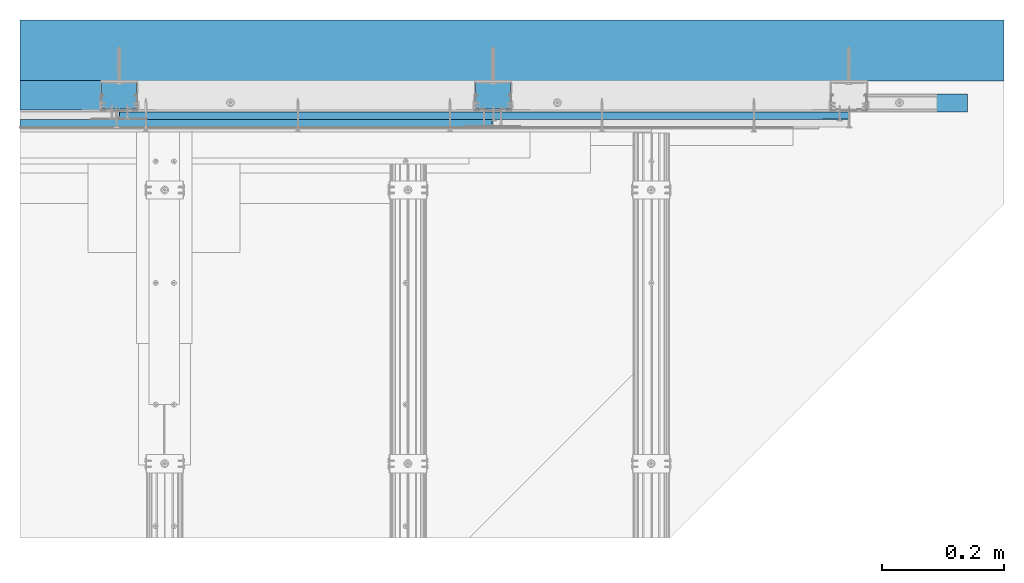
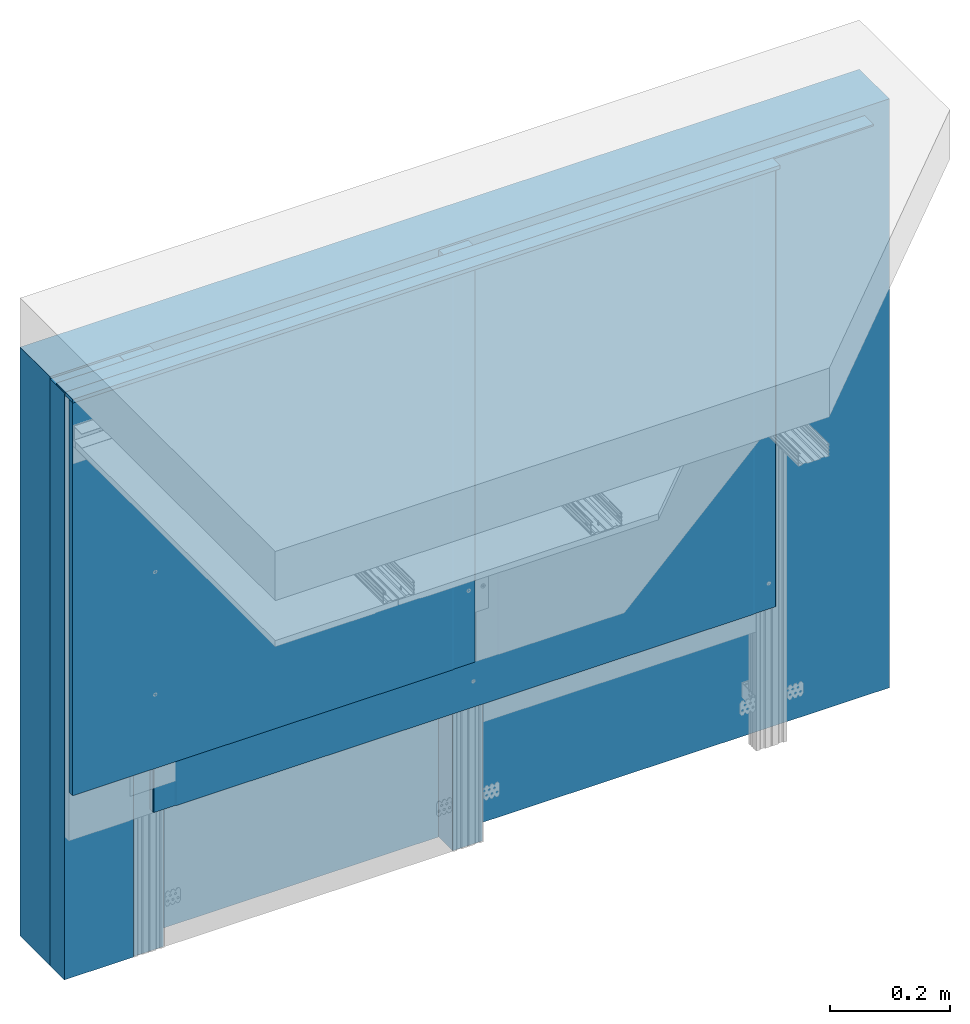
# One storey, part 30 of 62: 8 walls.
"""IFC2X3 building model written with IfcOpenShell, lengths in millimetres."""

from ifc_helpers import new_model, entity, si_unit, converted_unit, direction, frame, origin, origin_with_axes, place, context, project, spatial, faceted_brep, element, save


model = new_model("IFC2X3")

# Units and contexts
model_context = context("Model", 3, precision=1e-05, world=origin(), true_north=direction((0.0, 1.0, 0.0)))
ifc_project = project(units=[si_unit("LENGTHUNIT", "METRE", prefix="MILLI"), si_unit("AREAUNIT", "SQUARE_METRE"), si_unit("VOLUMEUNIT", "CUBIC_METRE"), converted_unit("PLANEANGLEUNIT", "DEGREE", entity("IfcPlaneAngleMeasure", 0.01745), si_unit("PLANEANGLEUNIT", "RADIAN"), dimensions=[0, 0, 0, 0, 0, 0, 0]), si_unit("SOLIDANGLEUNIT", "STERADIAN"), si_unit("MASSUNIT", "GRAM"), si_unit("TIMEUNIT", "SECOND"), si_unit("THERMODYNAMICTEMPERATUREUNIT", "DEGREE_CELSIUS"), si_unit("LUMINOUSINTENSITYUNIT", "LUMEN")], contexts=[model_context])

# Site, building, storey
site_placement = place(None, origin_with_axes())
site = spatial("IfcSite", under=ifc_project, at=site_placement, Name="Default Site", CompositionType="ELEMENT")
building_placement = place(site_placement, origin_with_axes())
building = spatial("IfcBuilding", under=site, at=building_placement, Name="Default Building", CompositionType="ELEMENT")
storey_placement = place(building_placement, origin_with_axes())
storey = spatial("IfcBuildingStorey", under=building, at=storey_placement, Name="Default Building Storey", CompositionType="ELEMENT", Elevation=0.0)

# Walls
wall_1_placement = place(storey_placement, frame((3488.429648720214, 1946.180077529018, 1391.424461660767), z_axis=(0.0, 0.0, -1.0), x_axis=(1.0, 0.0, 0.0)))
element("IfcWall", 1, at=wall_1_placement, inside=storey, Name="Dedykowana masa szpachlowa Rigips - konstrukcyjna", context=model_context, shape_type="Brep", body=[
    faceted_brep([(0.0, -24.6461696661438, 0.0), (0.0, 0.0, 0.0), (-1363.404515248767, 0.0, 0.0), (-1363.404515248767, -24.6461696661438, 0.0), (0.0, 0.0, 7.614392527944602), (-1363.404515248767, 0.0, 7.614392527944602), (0.0, -24.6461696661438, 7.614392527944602), (-1363.404515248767, -24.6461696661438, 7.614392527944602)], [[[0, 1, 2, 3]], [[1, 4, 5, 2]], [[4, 6, 7, 5]], [[6, 0, 3, 7]], [[7, 3, 2, 5]], [[0, 6, 4, 1]]]),
])
wall_2_placement = place(storey_placement, frame((3516.951496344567, -1288.142300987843, 1387.224461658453), z_axis=(7.620176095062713e-14, 6.858158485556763e-13, -1.0), x_axis=(1.0, 9.714451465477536e-17, 7.62017609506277e-14)))
element("IfcWall", 2, at=wall_2_placement, inside=storey, Name="ŚCIANA", context=model_context, shape_type="Brep", body=[
    faceted_brep([(-1391.926362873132, -3410.283223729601, -4.2000000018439), (226.0891218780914, -3410.283223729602, -4.20000000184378), (226.0891218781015, -3310.283223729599, -4.200000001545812), (-1391.926362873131, -3310.283223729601, -4.200000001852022), (226.0891218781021, -3310.283223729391, 1195.799999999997), (-1391.926362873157, -3310.283223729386, 1195.800000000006), (226.0891218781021, -3410.28322372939, 1195.799999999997), (-1391.926362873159, -3410.28322372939, 1195.8)], [[[0, 1, 2, 3]], [[3, 2, 4, 5]], [[6, 7, 5, 4]], [[4, 2, 1, 6]], [[0, 7, 6, 1]], [[0, 3, 5, 7]]]),
])
wall_3_placement = place(storey_placement, frame((2288.4296487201, 1971.180077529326, 233.8084874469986), z_axis=(0.0, 0.0, -1.0), x_axis=(1.0, 0.0, 0.0)))
element("IfcWall", 3, at=wall_3_placement, inside=storey, Name="Płyta gipsowo-kartonowa RIGIPS PRO (4PRO™)", context=model_context, shape_type="Brep", body=[
    faceted_brep([(1199.866025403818, 10.99999999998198, -249.9999999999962), (1199.965925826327, 10.75881904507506, -249.9999999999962), (1199.965925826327, 10.75881904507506, -1150.001581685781), (1199.866025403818, 10.99999999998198, -1150.001581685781), (1199.707106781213, 11.20710678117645, -249.9999999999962), (1199.707106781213, 11.20710678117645, -1150.001581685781), (1199.50000000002, 11.36602540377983, -249.9999999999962), (1199.50000000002, 11.36602540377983, -1150.001581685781), (1199.258819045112, 11.46592582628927, -249.9999999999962), (1199.258819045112, 11.46592582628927, -1150.001581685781), (1199.0, 11.50000000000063, -249.9999999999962), (1199.0, 11.50000000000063, -1150.001581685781), (1158.999999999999, 11.50000000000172, -249.9999999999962), (1158.999999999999, 11.50000000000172, -1150.001581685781), (1155.000000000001, 12.49999999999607, -249.9999999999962), (1155.000000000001, 12.49999999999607, -1150.001581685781), (44.99999999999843, 12.50000000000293, -249.9999999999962), (44.99999999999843, 12.50000000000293, -1150.001581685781), (40.99999999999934, 11.50000000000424, -249.9999999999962), (40.99999999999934, 11.50000000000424, -1150.001581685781), (0.9999999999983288, 11.5000000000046, -249.9999999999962), (0.9999999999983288, 11.5000000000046, -1150.001581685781), (0.7411809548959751, 11.46592582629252, -249.9999999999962), (0.7411809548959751, 11.46592582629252, -1150.001581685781), (0.4999999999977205, 11.3660254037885, -249.9999999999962), (0.4999999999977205, 11.3660254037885, -1150.001581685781), (0.29289321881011, 11.20710678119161, -249.9999999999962), (0.29289321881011, 11.20710678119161, -1150.001581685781), (0.1339745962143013, 11.00000000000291, -249.9999999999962), (0.1339745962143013, 11.00000000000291, -1150.001581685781), (0.03407417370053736, 10.7588190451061, -249.9999999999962), (0.03407417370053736, 10.7588190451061, -1150.001581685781), (-2.887645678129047e-12, 10.50000000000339, -249.9999999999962), (-2.887645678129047e-12, 10.50000000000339, -1150.001581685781), (0.0, 0.0, -249.9999999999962), (0.0, 0.0, -1150.001581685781), (1200.0, 0.0, -249.9999999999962), (1200.0, 0.0, -1150.001581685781), (1200.000000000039, 10.49999999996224, -249.9999999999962), (1200.000000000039, 10.49999999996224, -1150.001581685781)], [[[0, 1, 2, 3]], [[4, 0, 3, 5]], [[6, 4, 5, 7]], [[8, 6, 7, 9]], [[10, 8, 9, 11]], [[12, 10, 11, 13]], [[14, 12, 13, 15]], [[16, 14, 15, 17]], [[18, 16, 17, 19]], [[20, 18, 19, 21]], [[22, 20, 21, 23]], [[24, 22, 23, 25]], [[26, 24, 25, 27]], [[28, 26, 27, 29]], [[30, 28, 29, 31]], [[32, 30, 31, 33]], [[34, 32, 33, 35]], [[36, 34, 35, 37]], [[38, 36, 37, 39]], [[1, 38, 39, 2]], [[2, 39, 37, 35, 33, 31, 29, 27, 25, 23, 21, 19, 17, 15, 13, 11, 9, 7, 5, 3]], [[12, 14, 16, 18, 20, 22, 24, 26, 28, 30, 32, 34, 36, 38, 1, 0, 4, 6, 8, 10]]]),
])
wall_4_placement = place(storey_placement, frame((2901.506370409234, 1958.680077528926, 333.8084874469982), z_axis=(0.0, 0.0, -1.0), x_axis=(-1.0, 6.389333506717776e-13, 0.0)))
element("IfcWall", 4, at=wall_4_placement, inside=storey, Name="Płyta gipsowo-kartonowa RIGIPS PRO (4PRO™)", context=model_context, shape_type="Brep", body=[
    faceted_brep([(776.4812369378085, -12.49999999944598, -249.9999999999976), (776.4812369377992, 5.262734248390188e-10, -249.9999999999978), (776.4812369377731, 5.230248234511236e-10, -1050.001581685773), (776.4812369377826, -12.49999999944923, -1050.001581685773), (44.99999999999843, -12.50000000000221, -249.9999999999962), (40.99999999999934, -11.50000000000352, -249.9999999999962), (0.9999999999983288, -11.50000000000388, -249.9999999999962), (0.7411809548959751, -11.46592582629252, -249.9999999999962), (0.4999999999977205, -11.3660254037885, -249.9999999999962), (0.29289321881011, -11.20710678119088, -249.9999999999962), (0.1339745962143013, -11.00000000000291, -249.9999999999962), (0.03407417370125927, -10.7588190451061, -249.9999999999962), (-2.526689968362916e-12, -10.50000000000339, -249.9999999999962), (0.0, 0.0, -249.9999999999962), (44.99999999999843, -12.50000000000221, -1050.001581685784), (40.99999999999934, -11.50000000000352, -1050.001581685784), (0.9999999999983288, -11.50000000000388, -1050.001581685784), (0.7411809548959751, -11.46592582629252, -1050.001581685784), (0.4999999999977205, -11.3660254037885, -1050.001581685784), (0.29289321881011, -11.20710678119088, -1050.001581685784), (0.1339745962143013, -11.00000000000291, -1050.001581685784), (0.03407417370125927, -10.7588190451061, -1050.001581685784), (-2.526689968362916e-12, -10.50000000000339, -1050.001581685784), (0.0, 0.0, -1050.001581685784)], [[[0, 1, 2, 3]], [[0, 4, 5, 6, 7, 8, 9, 10, 11, 12, 13, 1]], [[3, 14, 4, 0]], [[5, 4, 14, 15]], [[6, 5, 15, 16]], [[7, 6, 16, 17]], [[8, 7, 17, 18]], [[9, 8, 18, 19]], [[10, 9, 19, 20]], [[11, 10, 20, 21]], [[12, 11, 21, 22]], [[13, 12, 22, 23]], [[2, 1, 13, 23]], [[14, 3, 2, 23, 22, 21, 20, 19, 18, 17, 16, 15]]]),
])
for number, where, z_axis, x_axis, name in (
    (5, (2091.149783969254, 5350.424146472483, 1395.654775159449), (0.0, 0.0, -1.0), (-1.0, 4.718447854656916e-16, 0.0), "Wypełnienie wełny mineralnej szklanej lub skalnej ISOVER"),
    (6, (2706.062306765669, 5350.424146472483, 1395.654775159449), (0.0, 0.0, -1.0), (-1.0, 4.718447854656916e-16, 0.0), "Wypełnienie wełny mineralnej szklanej lub skalnej ISOVER"),
):
    element("IfcWall", number, at=place(storey_placement, frame(where, z_axis=z_axis, x_axis=x_axis)), inside=storey, Name=name, context=model_context, shape_type="Brep", body=[
        faceted_brep([(-168.1247796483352, -3327.645535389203, 8.2026903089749), (-168.1247796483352, -3327.645535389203, 1204.169500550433), (-225.8247796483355, -3327.645535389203, 1204.169500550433), (-225.8247796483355, -3327.645535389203, 8.2026903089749), (-168.1247796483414, -3370.612995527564, 8.2026903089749), (-168.1247796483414, -3370.612995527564, 1204.169500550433), (-225.8247796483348, -3374.8332237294, 1204.169500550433), (-168.1247796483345, -3374.833223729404, 1204.169500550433), (-168.1247796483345, -3374.833223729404, 8.2026903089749), (-225.8247796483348, -3374.8332237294, 8.2026903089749)], [[[0, 1, 2, 3]], [[0, 4, 5, 1]], [[6, 7, 8, 9]], [[2, 6, 9, 3]], [[8, 4, 0, 3, 9]], [[6, 2, 1, 5, 7]], [[5, 4, 8, 7]]]),
    ])
wall_5_placement = place(storey_placement, frame((2022.148643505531, 5350.424146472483, 1395.352084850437), z_axis=(0.0, 0.0, -1.0), x_axis=(-1.0, 4.718447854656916e-16, 0.0)))
element("IfcWall", 7, at=wall_5_placement, inside=storey, Name="Wypełnienie wełny mineralnej szklanej lub skalnej ISOVER", context=model_context, shape_type="Brep", body=[
    faceted_brep([(-102.8764899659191, -3327.645535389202, 7.899999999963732), (-102.8764899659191, -3327.645535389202, 1203.927623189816), (-236.0028390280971, -3327.645535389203, 1203.927623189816), (-236.0028390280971, -3327.645535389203, 7.899999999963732), (-236.0028390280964, -3376.283223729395, 1203.927623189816), (-102.8764899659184, -3376.283223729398, 1203.927623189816), (-102.8764899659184, -3376.283223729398, 7.899999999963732), (-236.0028390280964, -3376.283223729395, 7.899999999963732)], [[[0, 1, 2, 3]], [[4, 5, 6, 7]], [[2, 4, 7, 3]], [[6, 0, 3, 7]], [[4, 2, 1, 5]], [[5, 1, 0, 6]]]),
])
wall_6_placement = place(storey_placement, frame((5813.091473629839, 3469.79227997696, 1502.399461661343), z_axis=(-6.754789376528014e-14, -6.858158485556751e-13, -1.0), x_axis=(-1.0, -1.816065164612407e-15, 8.596431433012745e-14)))
element("IfcWall", 8, at=wall_6_placement, inside=storey, Name="Taśma uszczelniająca piankowa RIGIPS", context=model_context, shape_type="Brep", body=[
    faceted_brep([(2130.050855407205, -1498.9660327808, 113.975000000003), (2130.050855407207, -1498.9660327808, 110.9750000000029), (2130.050855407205, -1468.966032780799, 110.9750000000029), (2130.050855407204, -1468.9660327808, 113.975000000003), (3688.066340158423, -1498.966032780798, 110.9750000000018), (3688.066340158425, -1498.966032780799, 113.9750000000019), (3688.066340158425, -1468.966032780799, 113.9750000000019), (3688.066340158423, -1468.966032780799, 110.9750000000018)], [[[0, 1, 2, 3]], [[4, 5, 6, 7]], [[5, 0, 3, 6]], [[6, 3, 2, 7]], [[7, 2, 1, 4]], [[4, 1, 0, 5]]]),
])

save(model, "model.ifc")
